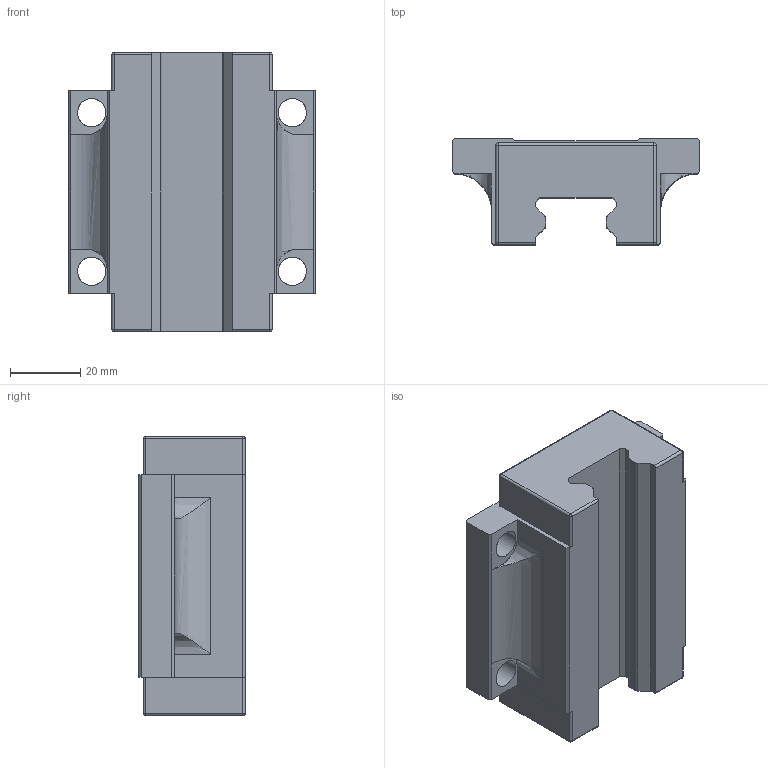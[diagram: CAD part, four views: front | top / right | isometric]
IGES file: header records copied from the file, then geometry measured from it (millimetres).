
Start section: SolidWorks IGES file using analytic representation for surfaces
Global section: file name: C:\Users\IanO\Desktop\Temp File\GENERAL\L1016_v2\L1016.F-BC_v2\L1016.F-BC_v2_20190612_IGES\L1016.F25-BC.igs; native system: SolidWorks 2017; preprocessor: SolidWorks 2017; author: IanO; date: 190613.152201; units: millimetre
Bounding box: 70 x 30.2 x 79.2 mm (x, y, z)
Surface area: 20019.1 mm2 (no closed solid volume)
Topology: 0 solids, 0 shells, 92 faces, 892 edges, 884 vertices
Faces by surface type: bspline 48, revolution 44
